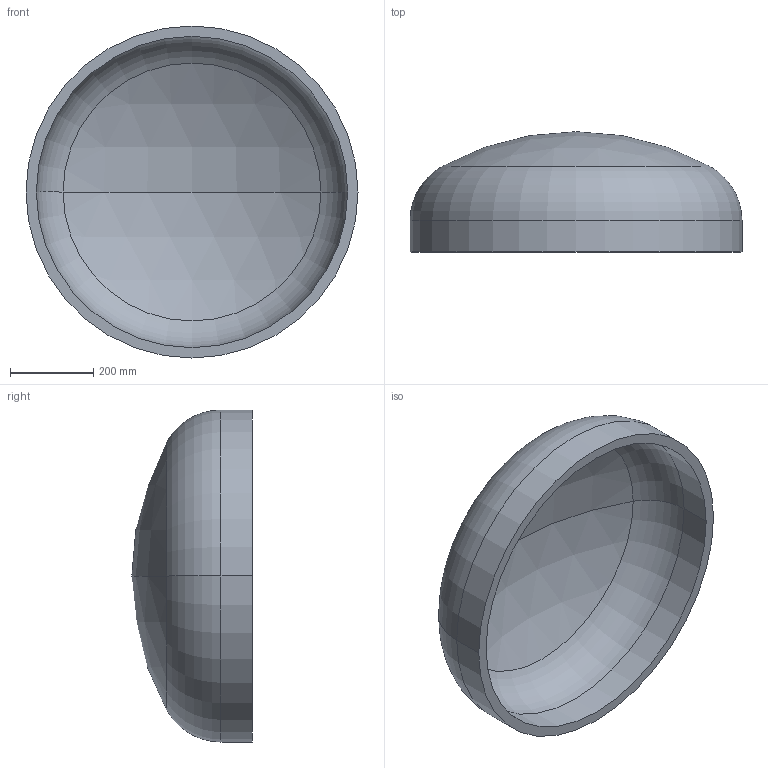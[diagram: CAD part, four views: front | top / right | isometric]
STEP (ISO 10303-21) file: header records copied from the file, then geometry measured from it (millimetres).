
FILE_DESCRIPTION (( 'STEP AP203' ), '1' );
FILE_NAME ('DIN 28013 Korbbogenform_-_Boden DIN 28013 - 800 x 75 - I - s=25.step', '2016-07-01T08:14:27', ( '' ), ( '' ), 'SwSTEP 2.0', 'SolidWorks 2013', '' );
FILE_SCHEMA (( 'CONFIG_CONTROL_DESIGN' ));
Length unit declared in the file: millimetre
Products named in the file (1): DIN 28013 Korbbogenform_-_Boden DIN 28013 - 800 x 75 - I - s=25
Bounding box: 800 x 289.75 x 800 mm (x, y, z)
Volume: 21322940.6 mm3; surface area: 1768012.1 mm2
Topology: 1 solids, 1 shells, 13 faces, 24 edges, 14 vertices
Faces by surface type: torus 4, cylinder 4, sphere 4, plane 1
Entity records: 407 total; most frequent: DIRECTION 72, CARTESIAN_POINT 52, ORIENTED_EDGE 48, AXIS2_PLACEMENT_3D 34, EDGE_CURVE 24, CIRCLE 20, VERTEX_POINT 14, EDGE_LOOP 14
